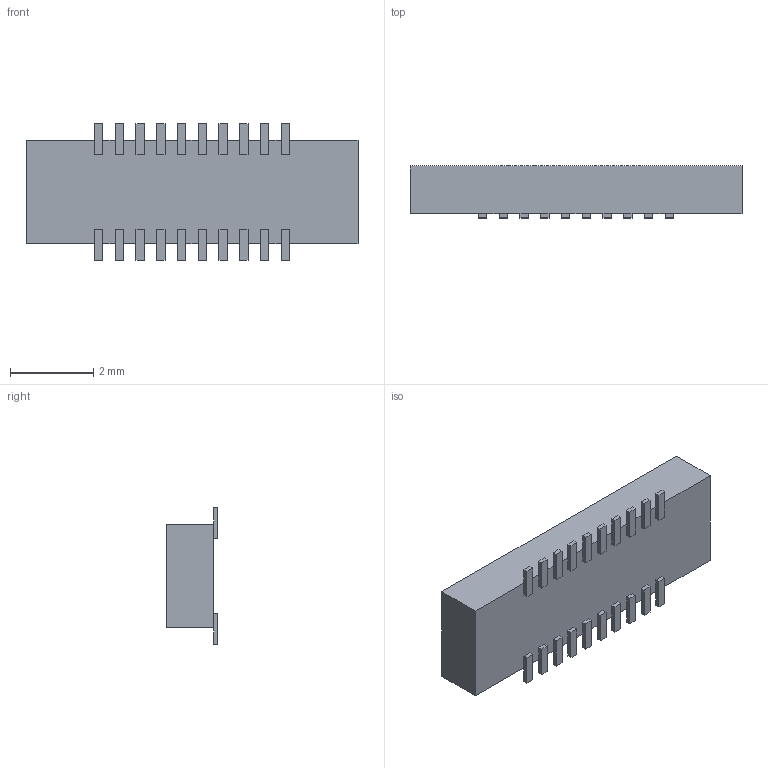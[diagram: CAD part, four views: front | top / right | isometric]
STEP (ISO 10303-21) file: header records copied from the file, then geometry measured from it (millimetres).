
FILE_DESCRIPTION((''),'2;1');
FILE_NAME('BTB-18PIN-2H-05P-MALE_PRT','2008-06-30T',('GRA'),(''),'PRO/ENGINEER BY PARAMETRIC TECHNOLOGY CORPORATION, 2006170','PRO/ENGINEER BY PARAMETRIC TECHNOLOGY CORPORATION, 2006170','');
FILE_SCHEMA(('CONFIG_CONTROL_DESIGN'));
Length unit declared in the file: millimetre
Products named in the file (1): BTB-18PIN-2H-05P-MALE_PRT
Bounding box: 8 x 1.25 x 3.3 mm (x, y, z)
Volume: 23.3 mm3; surface area: 71.2 mm2
Topology: 1 solids, 1 shells, 126 faces, 332 edges, 208 vertices
Faces by surface type: plane 126
Entity records: 3794 total; most frequent: CARTESIAN_POINT 666, ORIENTED_EDGE 664, DIRECTION 584, VECTOR 332, LINE 332, EDGE_CURVE 332, VERTEX_POINT 208, AXIS2_PLACEMENT_3D 126
